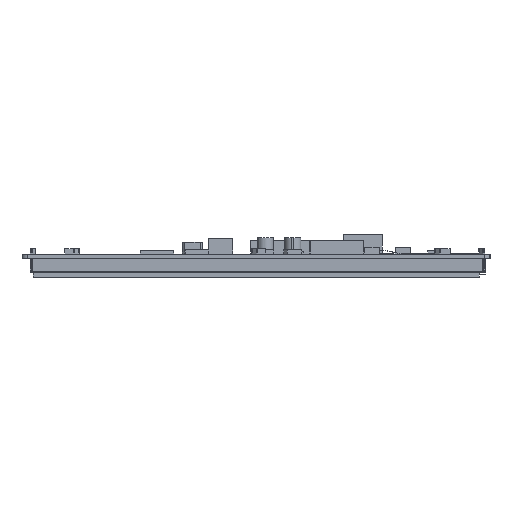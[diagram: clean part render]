
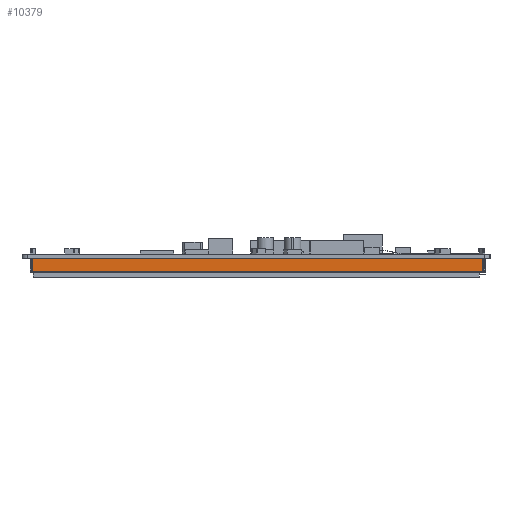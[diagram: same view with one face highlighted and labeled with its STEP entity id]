
A CAD part, left-side view. The second image highlights one B-rep face of the part: STEP entity #10379.
In plain terms, the highlighted planar face has unit normal (-1, 0, 0).
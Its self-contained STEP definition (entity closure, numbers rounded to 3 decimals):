
#10379=ADVANCED_FACE('',(#15380),#12928,.F.);
#12928=PLANE('',#50409);
#15380=FACE_OUTER_BOUND('',#18000,.T.);
#18000=EDGE_LOOP('',(#27088,#27089,#27090,#27091));
#27088=ORIENTED_EDGE('',*,*,#37036,.F.);
#27089=ORIENTED_EDGE('',*,*,#37037,.T.);
#27090=ORIENTED_EDGE('',*,*,#37038,.T.);
#27091=ORIENTED_EDGE('',*,*,#37039,.T.);
#32040=VERTEX_POINT('',#71200);
#32041=VERTEX_POINT('',#71201);
#32042=VERTEX_POINT('',#71203);
#32043=VERTEX_POINT('',#71205);
#37036=EDGE_CURVE('',#32040,#32041,#42344,.T.);
#37037=EDGE_CURVE('',#32040,#32042,#42345,.T.);
#37038=EDGE_CURVE('',#32042,#32043,#42346,.T.);
#37039=EDGE_CURVE('',#32043,#32041,#42347,.T.);
#42344=LINE('',#71199,#47437);
#42345=LINE('',#71202,#47438);
#42346=LINE('',#71204,#47439);
#42347=LINE('',#71206,#47440);
#47437=VECTOR('',#59605,1.);
#47438=VECTOR('',#59606,1.);
#47439=VECTOR('',#59607,1.);
#47440=VECTOR('',#59608,1.);
#50409=AXIS2_PLACEMENT_3D('',#71207,#59609,#59610);
#59605=DIRECTION('',(0.,0.,1.));
#59606=DIRECTION('',(0.,-1.,0.));
#59607=DIRECTION('',(0.,0.,1.));
#59608=DIRECTION('',(0.,1.,0.));
#59609=DIRECTION('',(1.,0.,0.));
#59610=DIRECTION('',(0.,1.,0.));
#71199=CARTESIAN_POINT('',(-94.685,79.608,-6.8));
#71200=CARTESIAN_POINT('',(-94.685,79.608,-6.2));
#71201=CARTESIAN_POINT('',(-94.685,79.608,-1.6));
#71202=CARTESIAN_POINT('',(-94.685,-84.792,-6.2));
#71203=CARTESIAN_POINT('',(-94.685,-84.792,-6.2));
#71204=CARTESIAN_POINT('',(-94.685,-84.792,-6.8));
#71205=CARTESIAN_POINT('',(-94.685,-84.792,-1.6));
#71206=CARTESIAN_POINT('',(-94.685,-84.792,-1.6));
#71207=CARTESIAN_POINT('',(-94.685,-84.792,-6.8));
